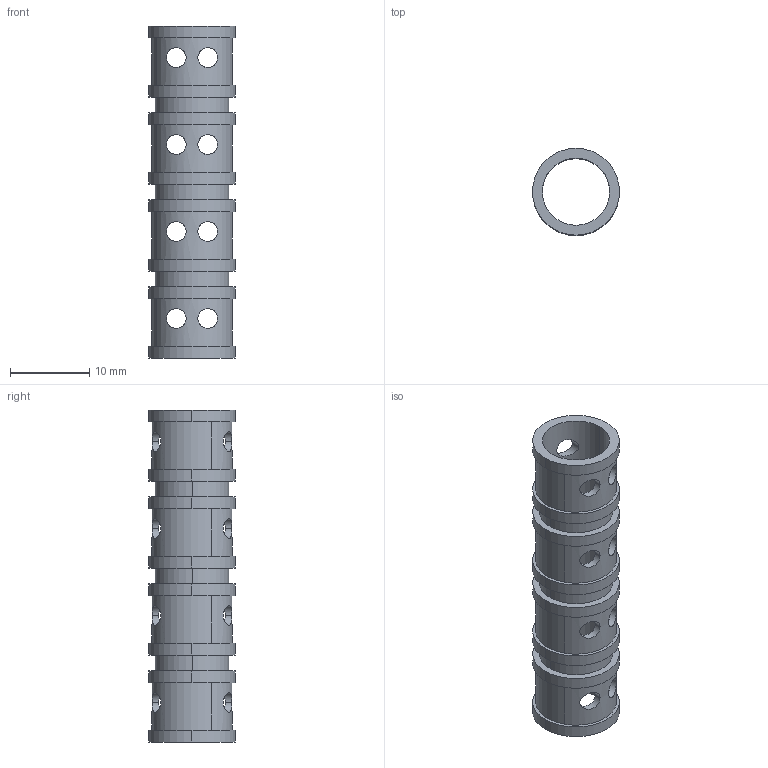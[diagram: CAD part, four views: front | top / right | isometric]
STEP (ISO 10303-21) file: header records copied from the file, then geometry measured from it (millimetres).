
FILE_DESCRIPTION(('CATIA V5 STEP Exchange'),'2;1');
FILE_NAME('G:\够快云库\系统集成开发部\1.部门成员\孙国\3D-stp打印件\1109\002.stp','2020-11-09T06:12:03+00:00',('none'),('none'),'CATIA Version 5 Release 20 GA (IN-10)','CATIA V5 STEP AP203','none');
FILE_SCHEMA(('CONFIG_CONTROL_DESIGN'));
Length unit declared in the file: millimetre
Products named in the file (1): 支撑圈
Bounding box: 11 x 11 x 42 mm (x, y, z)
Volume: 1050.3 mm3; surface area: 2771.5 mm2
Topology: 1 solids, 1 shells, 80 faces, 192 edges, 128 vertices
Faces by surface type: cylinder 64, plane 16
Entity records: 2990 total; most frequent: CARTESIAN_POINT 1341, ORIENTED_EDGE 384, EDGE_CURVE 192, DIRECTION 184, EDGE_LOOP 128, VERTEX_POINT 128, AXIS2_PLACEMENT_3D 93, ADVANCED_FACE 80
